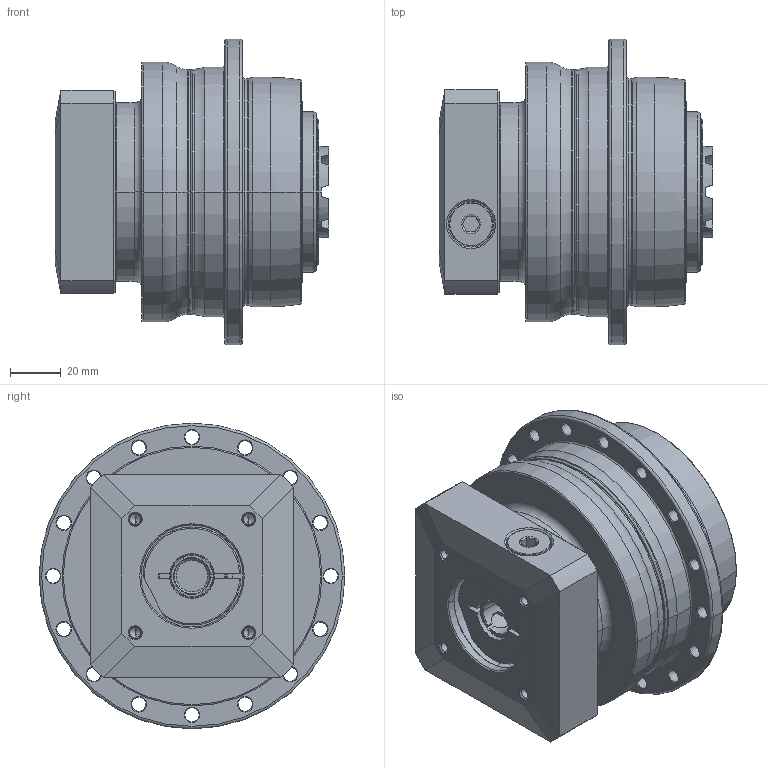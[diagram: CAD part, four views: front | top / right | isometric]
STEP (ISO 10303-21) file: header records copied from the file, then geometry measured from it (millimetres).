
FILE_DESCRIPTION((''),'2;1');
FILE_NAME('APC090_1ST_14-P0409320201_ASM','2019-06-26T',('D00280'),(''),'PRO/ENGINEER BY PARAMETRIC TECHNOLOGY CORPORATION, 2015240','PRO/ENGINEER BY PARAMETRIC TECHNOLOGY CORPORATION, 2015240','');
FILE_SCHEMA(('CONFIG_CONTROL_DESIGN'));
Length unit declared in the file: millimetre
Products named in the file (9): P0278301003; P0359330103; P1318310101; P0503300006; P0912301001; P1211300001; P0409320201; 21711412017; APC090_1ST_14-P0409320201_ASM
Assembly tree (8 placements, depth 2):
  APC090_1ST_14-P0409320201_ASM
    P0278301003
    P0359330103
    P1318310101
    P0503300006
    P0912301001
    P1211300001
    P0409320201
    21711412017
Bounding box: 107.4 x 120 x 120 mm (x, y, z)
Volume: 638122.7 mm3; surface area: 126656.3 mm2
Topology: 9 solids, 19 shells, 572 faces, 1366 edges, 833 vertices
Faces by surface type: cylinder 206, cone 172, plane 117, torus 63, bspline 14
Entity records: 21339 total; most frequent: CARTESIAN_POINT 7608, DIRECTION 3085, ORIENTED_EDGE 2662, EDGE_CURVE 1352, AXIS2_PLACEMENT_3D 1310, VERTEX_POINT 833, CIRCLE 725, EDGE_LOOP 657
